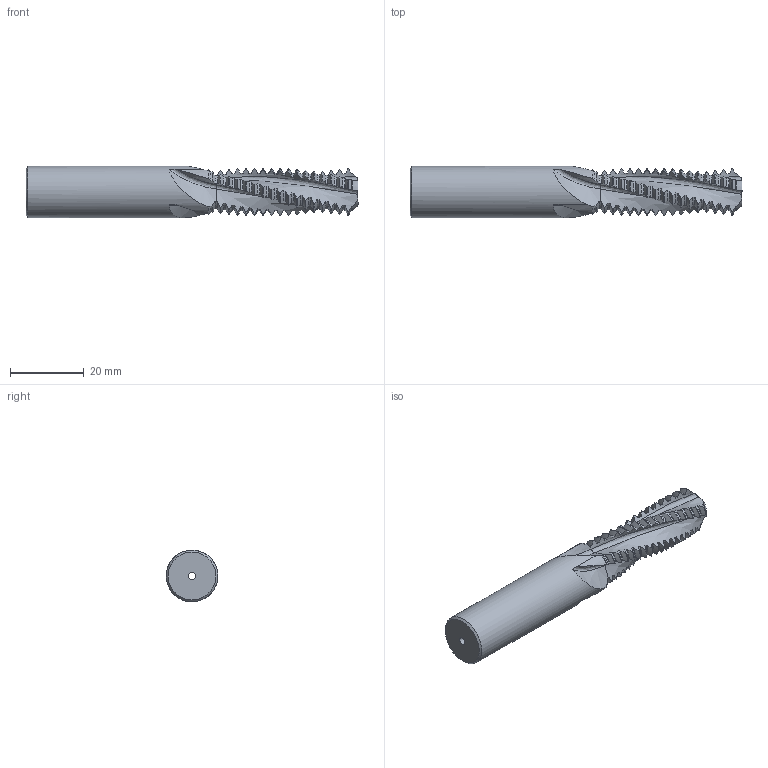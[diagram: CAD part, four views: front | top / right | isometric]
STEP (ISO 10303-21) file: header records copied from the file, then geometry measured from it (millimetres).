
FILE_DESCRIPTION(/* description */ (''),/* implementation_level */ '2;1');
FILE_NAME(/* name */ '00036546-STEP',/* time_stamp */ '2024-02-20T14:27:49+01:00',/* author */ (''),/* organization */ (''),/* preprocessor_version */ 'ST-DEVELOPER v16.5',/* originating_system */ 'HiCAD 2017 2201.0 Build 268',/* authorisation */ '');
FILE_SCHEMA (('AUTOMOTIVE_DESIGN { 1 0 10303 214 1 1 1 1 }'));
Products named in the file (2): Root; ROTATIONSTEIL_2
Assembly tree (1 placements, depth 2):
  Root
    ROTATIONSTEIL_2
Bounding box: 90 x 14 x 14 mm (x, y, z)
Volume: 9362.5 mm3; surface area: 4889.9 mm2
Topology: 1 solids, 1 shells, 438 faces, 1305 edges, 869 vertices
Faces by surface type: cone 141, cylinder 139, torus 132, bspline 24, plane 2
Full cylindrical faces by diameter (mm): 2 x1, 14 x1
Entity records: 45094 total; most frequent: CARTESIAN_POINT 22685, PRESENTATION_STYLE_ASSIGNMENT 2595, COLOUR_RGB 2595, DRAUGHTING_PRE_DEFINED_CURVE_FONT 2594, CURVE_STYLE 2594, OVER_RIDING_STYLED_ITEM 2594, ORIENTED_EDGE 2594, DIRECTION 1664
